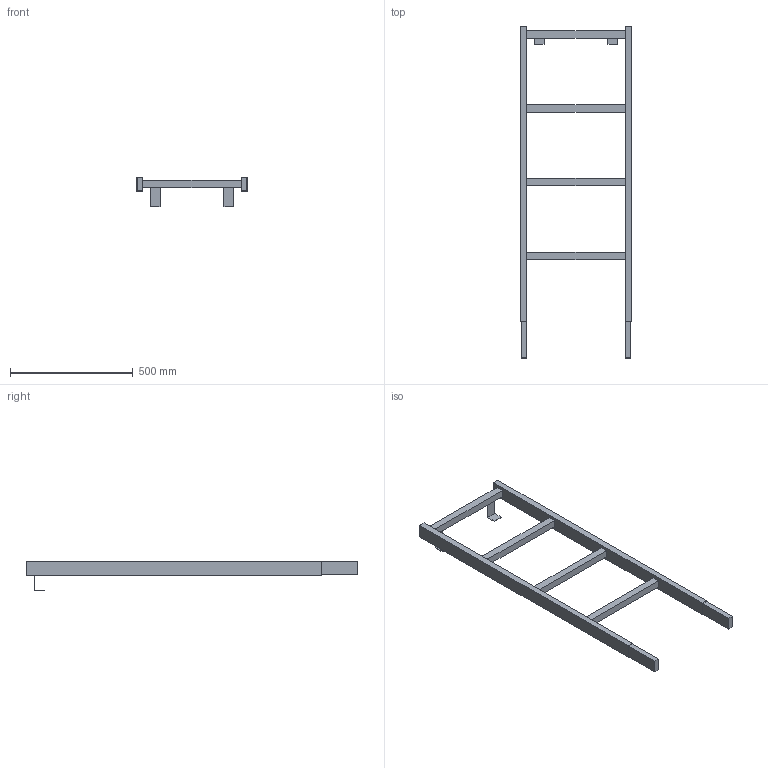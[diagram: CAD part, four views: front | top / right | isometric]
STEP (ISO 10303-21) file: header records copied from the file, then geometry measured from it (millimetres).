
FILE_DESCRIPTION((''),'2;1');
FILE_NAME('52332027','2024-12-18T10:46:28',('wep'),('HUBER SE'),'CREO PARAMETRIC BY PTC INC, 2022162','CREO PARAMETRIC BY PTC INC, 2022162','');
FILE_SCHEMA(('AUTOMOTIVE_DESIGN { 1 0 10303 214 1 1 1 1 }'));
Length unit declared in the file: millimetre
Products named in the file (1): 52332027
Bounding box: 450 x 1350 x 121.5 mm (x, y, z)
Volume: 5212460 mm3; surface area: 647988 mm2
Topology: 1 solids, 1 shells, 52 faces, 132 edges, 88 vertices
Faces by surface type: plane 52
Entity records: 2117 total; most frequent: CARTESIAN_POINT 274, ORIENTED_EDGE 264, DIRECTION 236, VECTOR 132, LINE 132, EDGE_CURVE 132, COLOUR_RGB 106, VERTEX_POINT 88
